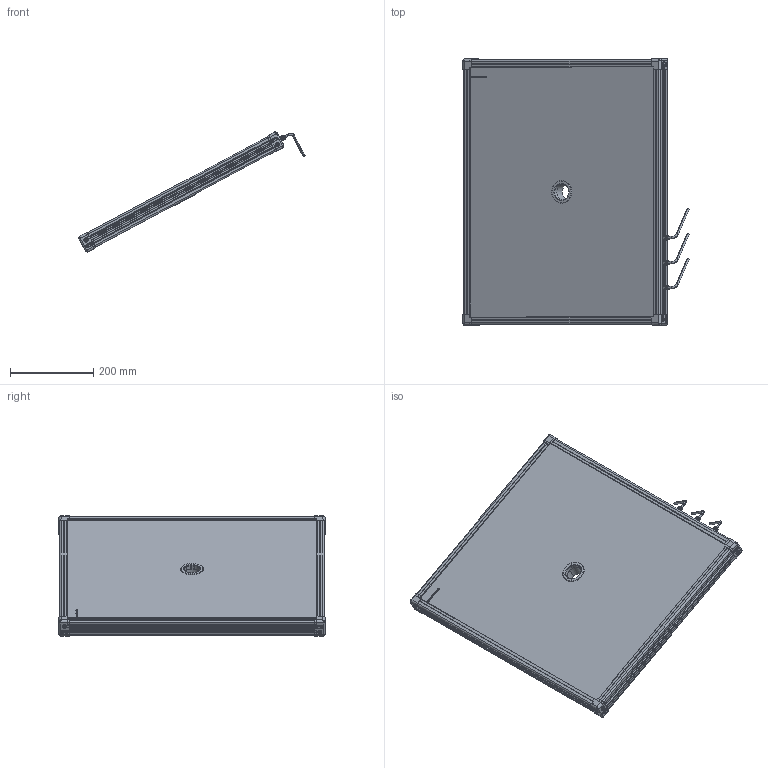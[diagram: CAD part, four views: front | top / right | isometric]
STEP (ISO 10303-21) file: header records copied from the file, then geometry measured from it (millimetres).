
FILE_DESCRIPTION (( 'STEP AP214' ), '1' );
FILE_NAME ('EFFI-FD-500-600-XXX-3M12.STEP', '2021-06-23T07:47:28', ( '' ), ( '' ), 'SwSTEP 2.0', 'SolidWorks 2021', '' );
FILE_SCHEMA (( 'AUTOMOTIVE_DESIGN' ));
Length unit declared in the file: millimetre
Products named in the file (13): assemblage Ø39; 000629; profile Y_PERCE; 001036; cordon_Avec cable; EFFI-FD-500-600-XXX-3M12; Pièce13^EFFI-FD-XXX-YYY-ZZZ (3 connecteurs) Ø39; petite joue + vis; 000590; profile X_PERCE; petite joue; 001035
Assembly tree (21 placements, depth 3):
  EFFI-FD-500-600-XXX-3M12
    profile X_PERCE  x2
    profile Y_PERCE
    profile Y_PERCE
    Pièce13^EFFI-FD-XXX-YYY-ZZZ (3 connecteurs) Ø39
    petite joue + vis  x4
      petite joue
      000629
    assemblage Ø39
      001036
      000590  x3
      001035
    cordon_Avec cable  x3
Bounding box: 542.73 x 639 x 288.17 mm (x, y, z)
Volume: 11897872.3 mm3; surface area: 1060953.1 mm2
Topology: 22 solids, 40 shells, 4073 faces, 10811 edges, 7106 vertices
Faces by surface type: plane 2528, cylinder 732, bspline 609, cone 156, torus 48
Entity records: 55817 total; most frequent: CARTESIAN_POINT 22582, ORIENTED_EDGE 6924, DIRECTION 5621, EDGE_CURVE 3466, VECTOR 2447, LINE 2447, VERTEX_POINT 2287, AXIS2_PLACEMENT_3D 1587
